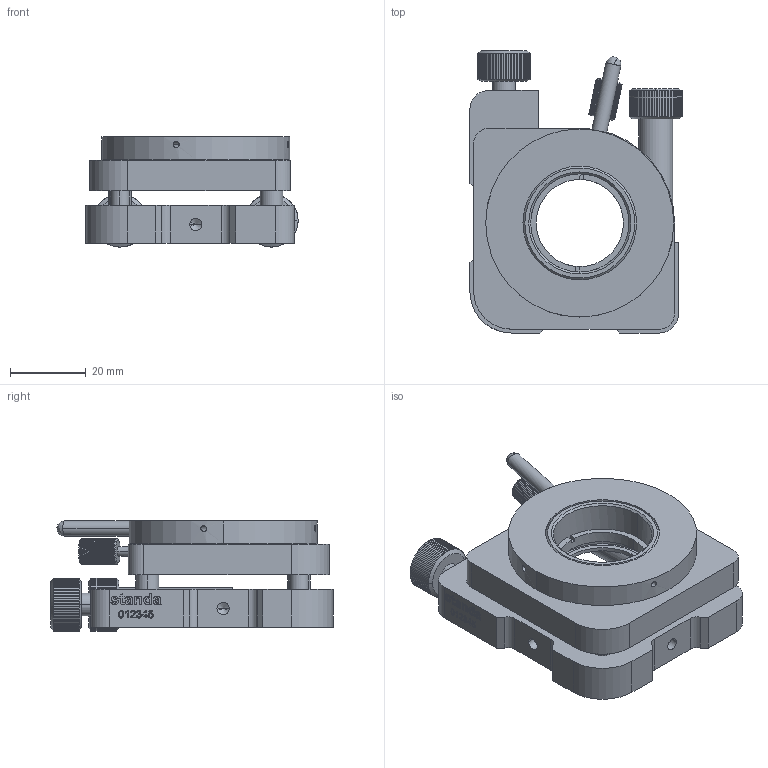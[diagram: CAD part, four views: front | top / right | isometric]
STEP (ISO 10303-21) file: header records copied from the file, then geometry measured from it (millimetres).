
FILE_DESCRIPTION (( 'STEP AP203' ), '1' );
FILE_NAME ('5APH69T-1.STEP', '2005-10-18T05:36:53', ( 'Darius' ), ( '' ), 'SwSTEP 2.0', 'SolidWorks 2003240', '' );
FILE_SCHEMA (( 'CONFIG_CONTROL_DESIGN' ));
Length unit declared in the file: millimetre
Products named in the file (1): 5APH69T-1
Bounding box: 56 x 74.42 x 29.06 mm (x, y, z)
Volume: 44123.6 mm3; surface area: 23919.6 mm2
Topology: 1 solids, 6 shells, 837 faces, 2235 edges, 1439 vertices
Faces by surface type: plane 580, bspline 115, cylinder 92, cone 50
Entity records: 28844 total; most frequent: CARTESIAN_POINT 9671, ORIENTED_EDGE 4434, DIRECTION 3179, EDGE_CURVE 2217, VERTEX_POINT 1439, VECTOR 1093, LINE 1093, AXIS2_PLACEMENT_3D 1043
